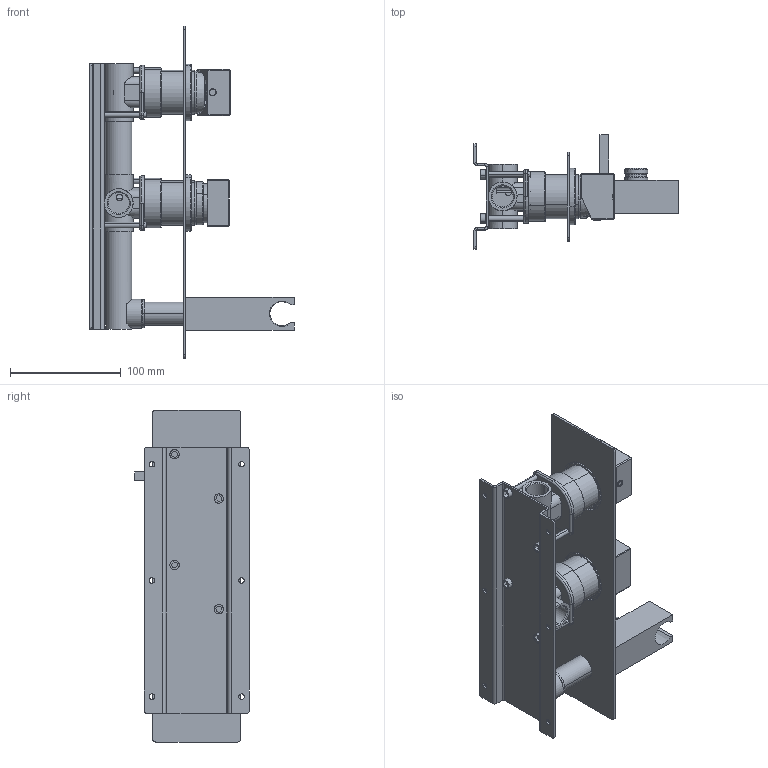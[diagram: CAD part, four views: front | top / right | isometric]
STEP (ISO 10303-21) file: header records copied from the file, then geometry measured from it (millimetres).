
FILE_DESCRIPTION (( 'STEP AP203' ), '1' );
FILE_NAME ('H4U80N.STEP', '2024-01-24T08:42:13', ( '' ), ( '' ), 'SwSTEP 2.0', 'SolidWorks 2023', '' );
FILE_SCHEMA (( 'CONFIG_CONTROL_DESIGN' ));
Length unit declared in the file: millimetre
Products named in the file (34): C24.2119.00.0; C39.00.0034; VITETC5x40; C11.14.0008; TUBO DI GIUNZIONE VASCA E DOCCIA; C11.14.0009; 405-40CPA GEDA; C24.1965.00.0; C10.00.0011; C11.14.0007; EROGATORE VASCA E DOCCIA; C12.00.0008; EU0110_1; 1174; C25.1964.00.0; C24.1992.00.0; C10.00.0015; IST80; C24.1993.00.0; C24.2016.00.0; CAPP_0; H4U80N; C12.00.0017; C47.00.0015; C24.2019.00.0; C47.00.0023.01; C12.00.0035; ADATTATORE MEZZO; AS809_00; 1174G; AS806_00; C24.1966.00.0; C25.2662.00; 1000
Assembly tree (45 placements, depth 4):
  H4U80N
    IST80
      405-40CPA GEDA
        1174G
        EROGATORE VASCA E DOCCIA
        TUBO DI GIUNZIONE VASCA E DOCCIA
        1174
        ADATTATORE MEZZO
      C24.1966.00.0
      C25.1964.00.0
      C24.1965.00.0  x2
      C12.00.0008
      C12.00.0017  x2
      1000  x2
      C47.00.0015  x2
      C10.00.0015
      C10.00.0011
      VITETC5x40  x4
      C24.1993.00.0
      CAPP_0
    C39.00.0034
    AS806_00
      C24.1992.00.0
      C24.2016.00.0
      C47.00.0023.01
      C11.14.0009
      C11.14.0007
    C25.2662.00
    C12.00.0035  x2
    C24.2119.00.0  x2
    AS809_00
      C24.2019.00.0
      EU0110_1
      C11.14.0008
      C11.14.0009
      C47.00.0023.01
    C47.00.0023.01
Bounding box: 184.5 x 103.5 x 300 mm (x, y, z)
Volume: 470356 mm3; surface area: 288573.6 mm2
Topology: 46 solids, 46 shells, 1579 faces, 3699 edges, 2304 vertices
Faces by surface type: plane 659, cylinder 558, cone 231, torus 104, bspline 27
Entity records: 40501 total; most frequent: CARTESIAN_POINT 8367, DIRECTION 6326, ORIENTED_EDGE 5548, EDGE_CURVE 2774, AXIS2_PLACEMENT_3D 2482, VERTEX_POINT 1726, EDGE_LOOP 1386, LINE 1362
